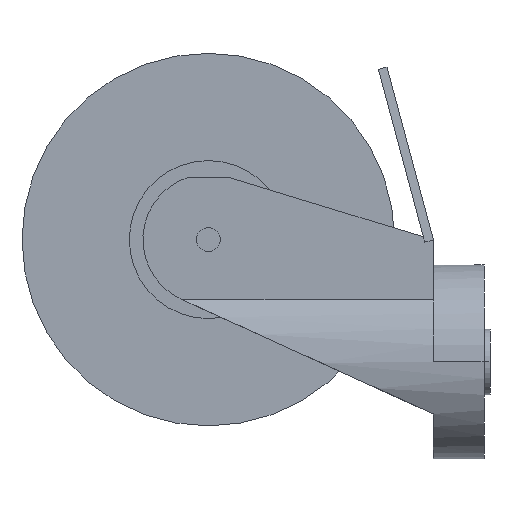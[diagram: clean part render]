
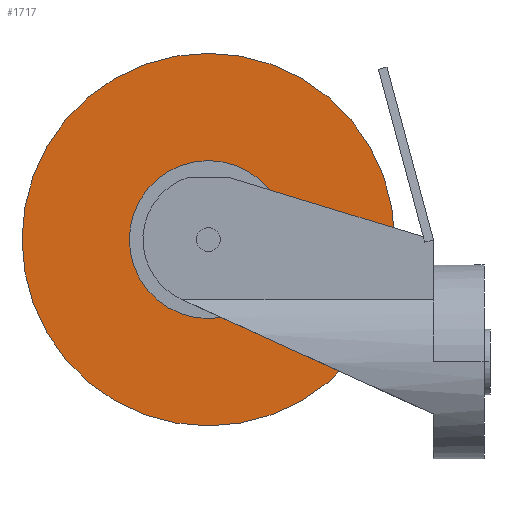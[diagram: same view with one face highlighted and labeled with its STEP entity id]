
A CAD part, left-side view. The second image highlights one B-rep face of the part: STEP entity #1717.
In plain terms, the highlighted planar face has unit normal (-1, 0, 0).
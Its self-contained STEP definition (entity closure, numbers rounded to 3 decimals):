
#1400=CARTESIAN_POINT('',(-18.5,0.,0.));
#1401=DIRECTION('',(-1.,0.,0.));
#1402=DIRECTION('',(0.,0.,-1.));
#1403=AXIS2_PLACEMENT_3D('',#1400,#1401,#1402);
#1405=CARTESIAN_POINT('',(-18.5,0.,0.));
#1406=DIRECTION('',(1.,0.,0.));
#1407=DIRECTION('',(0.,0.,-1.));
#1408=AXIS2_PLACEMENT_3D('',#1405,#1406,#1407);
#1410=CARTESIAN_POINT('',(-18.5,0.,0.));
#1411=DIRECTION('',(1.,0.,0.));
#1412=DIRECTION('',(0.,0.,-1.));
#1413=AXIS2_PLACEMENT_3D('',#1410,#1411,#1412);
#1423=CARTESIAN_POINT('',(-18.5,0.,0.));
#1424=DIRECTION('',(-1.,0.,0.));
#1425=DIRECTION('',(0.,0.,-1.));
#1426=AXIS2_PLACEMENT_3D('',#1423,#1424,#1425);
#1521=CARTESIAN_POINT('',(-18.5,0.,-62.5));
#1523=VERTEX_POINT('',#1521);
#1524=CARTESIAN_POINT('',(-18.5,0.,-26.5));
#1526=VERTEX_POINT('',#1524);
#1541=CARTESIAN_POINT('',(-18.5,0.,62.5));
#1543=VERTEX_POINT('',#1541);
#1544=CARTESIAN_POINT('',(-18.5,0.,26.5));
#1546=VERTEX_POINT('',#1544);
#1702=CARTESIAN_POINT('',(-18.5,0.,0.));
#1703=DIRECTION('',(1.,0.,0.));
#1704=DIRECTION('',(0.,0.,1.));
#1705=AXIS2_PLACEMENT_3D('',#1702,#1703,#1704);
#1706=PLANE('',#1705);
#1707=ORIENTED_EDGE('',*,*,#1695,.F.);
#1708=ORIENTED_EDGE('',*,*,#1684,.T.);
#1709=EDGE_LOOP('',(#1707,#1708));
#1710=FACE_OUTER_BOUND('',#1709,.F.);
#1712=ORIENTED_EDGE('',*,*,#1711,.F.);
#1714=ORIENTED_EDGE('',*,*,#1713,.T.);
#1715=EDGE_LOOP('',(#1712,#1714));
#1716=FACE_BOUND('',#1715,.F.);
#1717=ADVANCED_FACE('',(#1710,#1716),#1706,.F.);
#1404=CIRCLE('',#1403,62.5);
#1409=CIRCLE('',#1408,62.5);
#1414=CIRCLE('',#1413,26.5);
#1427=CIRCLE('',#1426,26.5);
#1684=EDGE_CURVE('',#1523,#1543,#1409,.T.);
#1695=EDGE_CURVE('',#1523,#1543,#1404,.T.);
#1711=EDGE_CURVE('',#1526,#1546,#1414,.T.);
#1713=EDGE_CURVE('',#1526,#1546,#1427,.T.);
